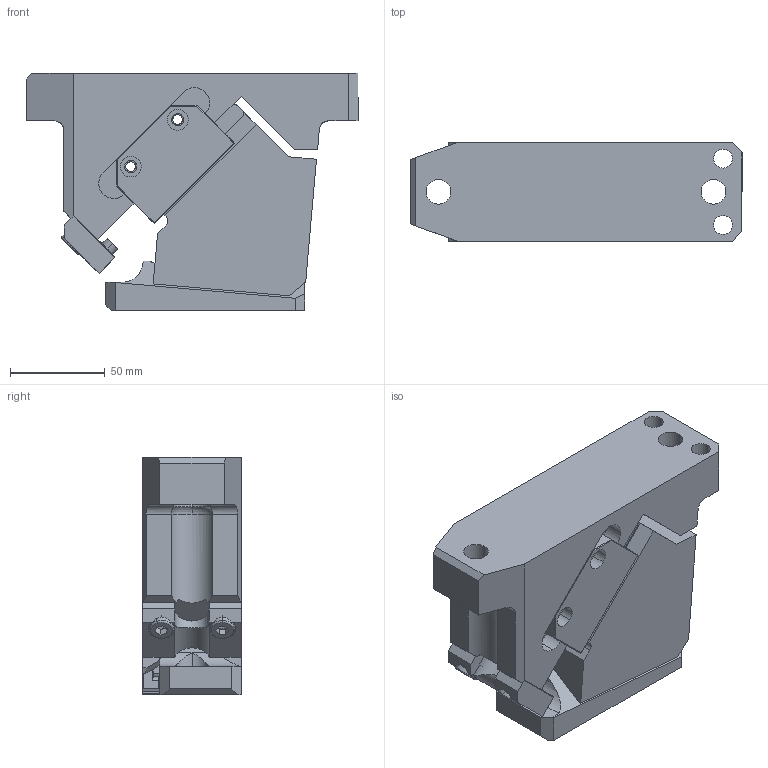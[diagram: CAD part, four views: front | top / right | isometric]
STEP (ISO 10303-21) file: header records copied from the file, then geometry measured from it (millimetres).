
FILE_DESCRIPTION (( 'STEP AP203' ), '1' );
FILE_NAME ('CLD052.05.step', '2014-05-05T08:34:14', ( '' ), ( '' ), 'SwSTEP 2.0', 'SolidWorks 2013', '' );
FILE_SCHEMA (( 'CONFIG_CONTROL_DESIGN' ));
Length unit declared in the file: millimetre
Products named in the file (4): CLD05205-02 CAM SLIDER; CLD05205-03 CAM DRIVER; CLD052.05; CLD05205-01 CAM BASE
Assembly tree (3 placements, depth 2):
  CLD052.05
    CLD05205-01 CAM BASE
    CLD05205-02 CAM SLIDER
    CLD05205-03 CAM DRIVER
Bounding box: 175 x 52 x 125 mm (x, y, z)
Volume: 699452 mm3; surface area: 115860.6 mm2
Topology: 3 solids, 7 shells, 376 faces, 975 edges, 618 vertices
Faces by surface type: plane 230, cylinder 121, cone 14, torus 11
Entity records: 11982 total; most frequent: CARTESIAN_POINT 2297, DIRECTION 1945, ORIENTED_EDGE 1930, EDGE_CURVE 965, AXIS2_PLACEMENT_3D 652, LINE 641, VECTOR 641, VERTEX_POINT 618
